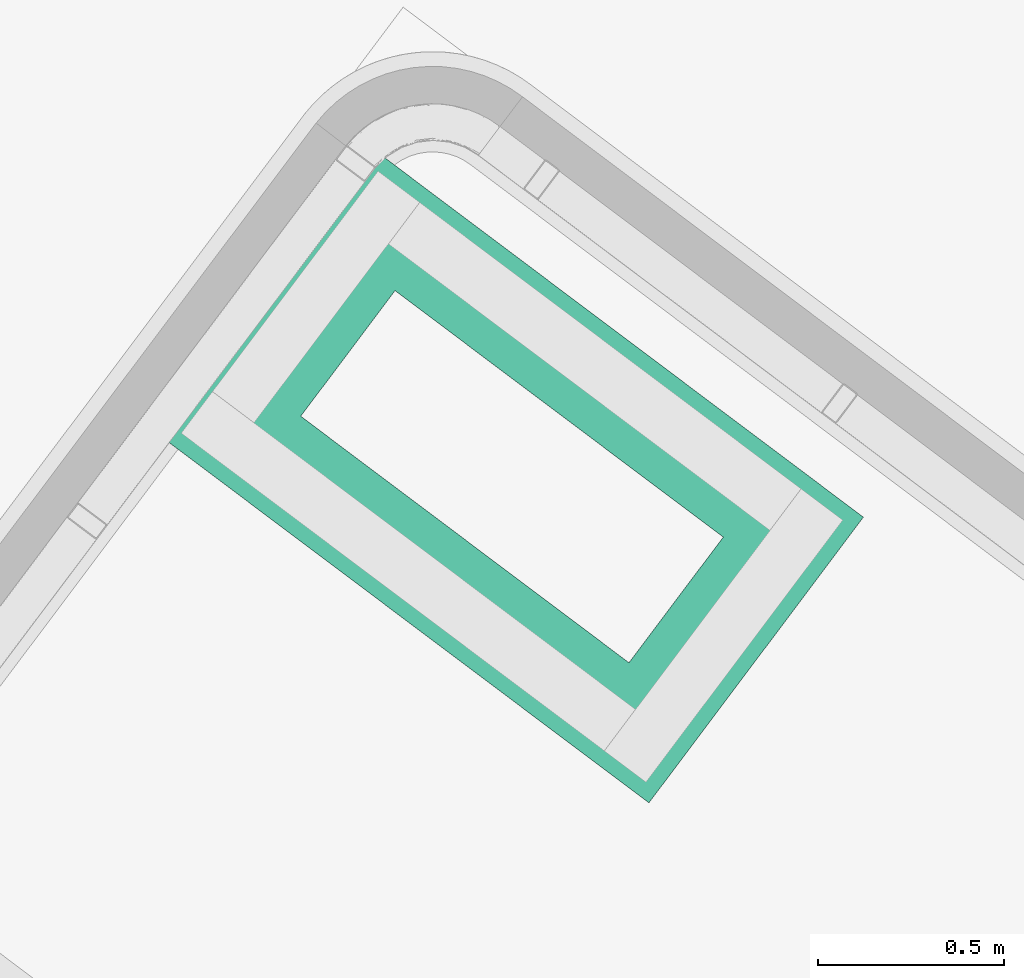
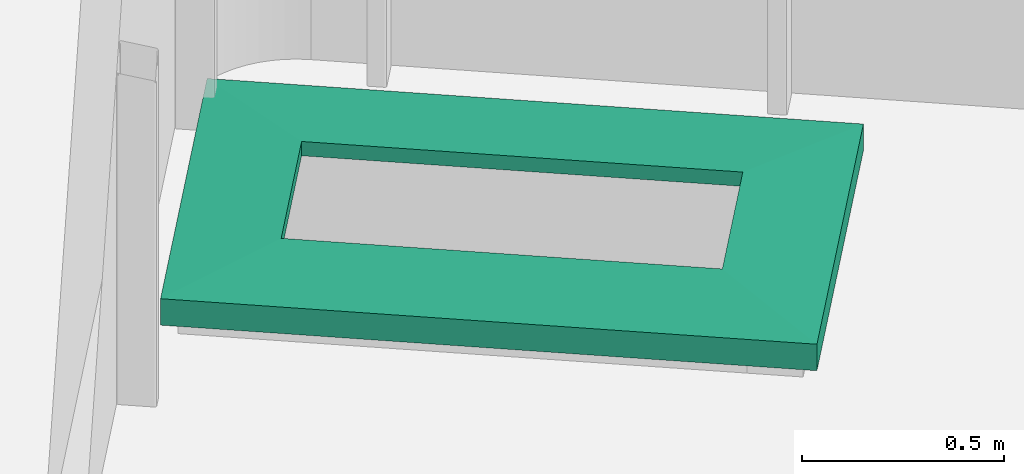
# One storey, part 26 of 28: 1 flow segment.
"""IFC2X3 building model written with IfcOpenShell, lengths in metres."""

from ifc_helpers import new_model, entity, si_unit, converted_unit, derived_unit, direction, frame, origin, place, context, subcontext, project, spatial, faceted_brep, source, transform, mapped, type_object, type_shapes, element, save


model = new_model("IFC2X3")

# Units and contexts
model_context = context("Model", 3, precision=1e-05, world=origin(), true_north=direction((6.123031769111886e-17, 1.0)))
body_context = subcontext(model_context, "Body", "Model", "MODEL_VIEW")
ifc_project = project(units=[si_unit("LENGTHUNIT", "METRE"), si_unit("AREAUNIT", "SQUARE_METRE"), si_unit("VOLUMEUNIT", "CUBIC_METRE"), converted_unit("PLANEANGLEUNIT", "DEGREE", entity("IfcRatioMeasure", 0.017453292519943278), si_unit("PLANEANGLEUNIT", "RADIAN"), dimensions=[0, 0, 0, 0, 0, 0, 0]), si_unit("MASSUNIT", "GRAM", prefix="KILO"), derived_unit("MASSDENSITYUNIT", [(si_unit("MASSUNIT", "GRAM", prefix="KILO"), 1), (si_unit("LENGTHUNIT", "METRE"), -3)]), derived_unit("IONCONCENTRATIONUNIT", [(si_unit("MASSUNIT", "GRAM", prefix="KILO"), 1), (si_unit("LENGTHUNIT", "METRE"), -3)]), derived_unit("MOMENTOFINERTIAUNIT", [(si_unit("LENGTHUNIT", "METRE"), 4)]), si_unit("TIMEUNIT", "SECOND"), si_unit("FREQUENCYUNIT", "HERTZ"), si_unit("THERMODYNAMICTEMPERATUREUNIT", "DEGREE_CELSIUS"), derived_unit("THERMALTRANSMITTANCEUNIT", [(si_unit("MASSUNIT", "GRAM", prefix="KILO"), 1), (si_unit("THERMODYNAMICTEMPERATUREUNIT", "KELVIN"), -1), (si_unit("TIMEUNIT", "SECOND"), -3)]), derived_unit("THERMALCONDUCTANCEUNIT", [(si_unit("MASSUNIT", "GRAM", prefix="KILO"), 1), (si_unit("THERMODYNAMICTEMPERATUREUNIT", "KELVIN"), -1), (si_unit("TIMEUNIT", "SECOND"), -3), (si_unit("LENGTHUNIT", "METRE"), 1)]), derived_unit("VOLUMETRICFLOWRATEUNIT", [(si_unit("LENGTHUNIT", "METRE"), 3), (si_unit("TIMEUNIT", "SECOND"), -1)]), derived_unit("MASSFLOWRATEUNIT", [(si_unit("MASSUNIT", "GRAM", prefix="KILO"), 1), (si_unit("TIMEUNIT", "SECOND"), -1)]), derived_unit("ROTATIONALFREQUENCYUNIT", [(si_unit("TIMEUNIT", "SECOND"), -1)]), si_unit("ELECTRICCURRENTUNIT", "AMPERE"), si_unit("ELECTRICVOLTAGEUNIT", "VOLT"), si_unit("POWERUNIT", "WATT"), si_unit("FORCEUNIT", "NEWTON", prefix="KILO"), si_unit("ILLUMINANCEUNIT", "LUX"), si_unit("LUMINOUSFLUXUNIT", "LUMEN"), si_unit("LUMINOUSINTENSITYUNIT", "CANDELA"), derived_unit("USERDEFINED", [(si_unit("MASSUNIT", "GRAM", prefix="KILO"), -1), (si_unit("LENGTHUNIT", "METRE"), -2), (si_unit("TIMEUNIT", "SECOND"), 3), (si_unit("LUMINOUSFLUXUNIT", "LUMEN"), 1)]), derived_unit("USERDEFINED", [(si_unit("MASSUNIT", "GRAM", prefix="KILO"), 1), (si_unit("TIMEUNIT", "SECOND"), -3), (si_unit("LENGTHUNIT", "METRE"), 3), (si_unit("ELECTRICCURRENTUNIT", "AMPERE"), -2)]), derived_unit("SOUNDPOWERUNIT", [(si_unit("MASSUNIT", "GRAM", prefix="KILO"), 1), (si_unit("TIMEUNIT", "SECOND"), -3), (si_unit("LENGTHUNIT", "METRE"), 2)]), derived_unit("SOUNDPRESSUREUNIT", [(si_unit("MASSUNIT", "GRAM", prefix="KILO"), 1), (si_unit("LENGTHUNIT", "METRE"), -1), (si_unit("TIMEUNIT", "SECOND"), -2)]), derived_unit("LINEARVELOCITYUNIT", [(si_unit("LENGTHUNIT", "METRE"), 1), (si_unit("TIMEUNIT", "SECOND"), -1)]), si_unit("PRESSUREUNIT", "PASCAL"), derived_unit("USERDEFINED", [(si_unit("MASSUNIT", "GRAM", prefix="KILO"), 1), (si_unit("LENGTHUNIT", "METRE"), -2), (si_unit("TIMEUNIT", "SECOND"), -2)]), derived_unit("LINEARFORCEUNIT", [(si_unit("MASSUNIT", "GRAM", prefix="KILO"), 1), (si_unit("TIMEUNIT", "SECOND"), -2)]), derived_unit("PLANARFORCEUNIT", [(si_unit("MASSUNIT", "GRAM", prefix="KILO"), 1), (si_unit("LENGTHUNIT", "METRE"), -1), (si_unit("TIMEUNIT", "SECOND"), -2)]), derived_unit("SPECIFICHEATCAPACITYUNIT", [(si_unit("THERMODYNAMICTEMPERATUREUNIT", "KELVIN"), -1), (si_unit("LENGTHUNIT", "METRE"), 2), (si_unit("TIMEUNIT", "SECOND"), -2)]), derived_unit("HEATINGVALUEUNIT", [(si_unit("LENGTHUNIT", "METRE"), 2), (si_unit("TIMEUNIT", "SECOND"), -2)]), derived_unit("VAPORPERMEABILITYUNIT", [(si_unit("LENGTHUNIT", "METRE"), -1), (si_unit("TIMEUNIT", "SECOND"), 1)]), derived_unit("DYNAMICVISCOSITYUNIT", [(si_unit("MASSUNIT", "GRAM", prefix="KILO"), 1), (si_unit("TIMEUNIT", "SECOND"), -1), (si_unit("LENGTHUNIT", "METRE"), -1)]), derived_unit("THERMALEXPANSIONCOEFFICIENTUNIT", [(si_unit("THERMODYNAMICTEMPERATUREUNIT", "KELVIN"), -1)]), derived_unit("MODULUSOFELASTICITYUNIT", [(si_unit("MASSUNIT", "GRAM", prefix="KILO"), 1), (si_unit("LENGTHUNIT", "METRE"), -1), (si_unit("TIMEUNIT", "SECOND"), -2)]), derived_unit("ISOTHERMALMOISTURECAPACITYUNIT", [(si_unit("LENGTHUNIT", "METRE"), 3), (si_unit("MASSUNIT", "GRAM", prefix="KILO"), -1)]), derived_unit("MOISTUREDIFFUSIVITYUNIT", [(si_unit("TIMEUNIT", "SECOND"), -1), (si_unit("LENGTHUNIT", "METRE"), 2)])], contexts=[model_context])

# Site, building, storey
site_placement = place(None, frame((0.0, 0.0, 235.0), z_axis=(0.0, 0.0, 1.0), x_axis=(-0.7996477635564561, 0.6004693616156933, 0.0)))
site = spatial("IfcSite", under=ifc_project, at=site_placement, Name="Default", CompositionType="ELEMENT")
building_placement = place(site_placement, origin())
building = spatial("IfcBuilding", under=site, at=building_placement, CompositionType="ELEMENT")
storey_placement = place(building_placement, frame((0.0, 0.0, 3.400000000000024)))
storey = spatial("IfcBuildingStorey", under=building, at=storey_placement, Name="PC- Coberta STR", CompositionType="ELEMENT", Elevation=3.400000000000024)

# Flow segment
pipe_segment_type = type_object("IfcPipeSegmentType", Name="Canalón:COB- Remat xapa coberta- Mur Installacions", PredefinedType="GUTTER")
shared_shape = source(origin(), body_context, "Body", "Brep", [
    faceted_brep([(0.017320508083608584, 0.9413208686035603, 0.010000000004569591), (0.0, 0.9586413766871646, 0.0), (1.638641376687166, 0.9586413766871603, 0.0), (1.6213208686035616, 0.941320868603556, 0.010000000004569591), (0.016320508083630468, 0.9423208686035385, 0.011732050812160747), (1.6223208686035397, 0.9423208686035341, 0.011732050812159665), (0.00200000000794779, 0.9566413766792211, 0.0034641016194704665), (1.6366413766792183, 0.9566413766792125, 0.0034641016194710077), (0.002000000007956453, 0.9566413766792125, 0.07809750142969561), (1.6366413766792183, 0.9566413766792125, 0.07809750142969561), (0.2666411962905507, 0.6920001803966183, 0.09653146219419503), (1.3720001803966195, 0.6920001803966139, 0.09653146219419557), (0.2666411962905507, 0.6920001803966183, 0.0589235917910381), (1.3720001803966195, 0.6920001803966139, 0.05892359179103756), (0.25232068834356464, 0.7063206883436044, 0.06719154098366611), (1.3863206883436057, 0.7063206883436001, 0.0671915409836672), (0.2513206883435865, 0.7073206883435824, 0.06545949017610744), (1.3873206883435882, 0.7073206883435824, 0.06545949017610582), (0.2686411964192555, 0.6900001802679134, 0.055459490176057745), (1.3700001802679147, 0.6900001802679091, 0.055459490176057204), (0.2686411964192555, 0.6900001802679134, 0.09865497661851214), (1.3700001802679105, 0.6900001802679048, 0.0986549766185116), (0.0, 0.9586413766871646, 0.08000000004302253), (1.638641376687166, 0.9586413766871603, 0.08000000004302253), (0.017320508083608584, 0.01732050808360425, 0.010000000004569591), (0.0, 0.0, 0.0), (0.016320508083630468, 0.016320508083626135, 0.011732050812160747), (0.00200000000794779, 0.0020000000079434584, 0.0034641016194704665), (0.002000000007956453, 0.0020000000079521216, 0.07809750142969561), (0.2666411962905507, 0.2666411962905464, 0.09653146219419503), (0.2666411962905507, 0.2666411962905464, 0.0589235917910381), (0.25232068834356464, 0.2523206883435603, 0.06719154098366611), (0.2513206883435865, 0.2513206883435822, 0.06545949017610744), (0.2686411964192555, 0.26864119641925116, 0.055459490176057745), (0.2686411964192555, 0.26864119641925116, 0.09865497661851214), (0.0, 0.0, 0.08000000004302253), (1.6213208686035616, 0.01732050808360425, 0.010000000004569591), (1.638641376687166, 0.0, 0.0), (1.6223208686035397, 0.016320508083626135, 0.011732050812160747), (1.6366413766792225, 0.0020000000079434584, 0.0034641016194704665), (1.6366413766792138, 0.0020000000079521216, 0.07809750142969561), (1.3720001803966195, 0.2666411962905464, 0.09653146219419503), (1.3720001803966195, 0.2666411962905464, 0.0589235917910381), (1.3863206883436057, 0.2523206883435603, 0.06719154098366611), (1.3873206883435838, 0.2513206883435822, 0.06545949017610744), (1.3700001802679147, 0.26864119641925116, 0.055459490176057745), (1.3700001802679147, 0.26864119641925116, 0.09865497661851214), (1.638641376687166, 0.0, 0.08000000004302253)], [[[0, 1, 2, 3]], [[4, 0, 3, 5]], [[6, 4, 5, 7]], [[8, 6, 7, 9]], [[10, 8, 9, 11]], [[12, 10, 11, 13]], [[14, 12, 13, 15]], [[16, 14, 15, 17]], [[18, 16, 17, 19]], [[20, 18, 19, 21]], [[22, 20, 21, 23]], [[1, 22, 23, 2]], [[24, 25, 1, 0]], [[26, 24, 0, 4]], [[27, 26, 4, 6]], [[28, 27, 6, 8]], [[29, 28, 8, 10]], [[30, 29, 10, 12]], [[31, 30, 12, 14]], [[32, 31, 14, 16]], [[33, 32, 16, 18]], [[34, 33, 18, 20]], [[35, 34, 20, 22]], [[25, 35, 22, 1]], [[36, 37, 25, 24]], [[38, 36, 24, 26]], [[39, 38, 26, 27]], [[40, 39, 27, 28]], [[41, 40, 28, 29]], [[42, 41, 29, 30]], [[43, 42, 30, 31]], [[44, 43, 31, 32]], [[45, 44, 32, 33]], [[46, 45, 33, 34]], [[47, 46, 34, 35]], [[37, 47, 35, 25]], [[3, 2, 37, 36]], [[5, 3, 36, 38]], [[7, 5, 38, 39]], [[9, 7, 39, 40]], [[11, 9, 40, 41]], [[13, 11, 41, 42]], [[15, 13, 42, 43]], [[17, 15, 43, 44]], [[19, 17, 44, 45]], [[21, 19, 45, 46]], [[23, 21, 46, 47]], [[2, 23, 47, 37]]]),
])
type_shapes(pipe_segment_type, [shared_shape])
flow_segment_placement = place(storey_placement, frame((32.800826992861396, -37.339510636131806, 0.41946162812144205)))
element("IfcFlowSegment", 1, at=flow_segment_placement, inside=storey, type_object=pipe_segment_type, Name="Canalón:COB- Remat xapa coberta- Mur Installacions", ObjectType="Canalón:COB- Remat xapa coberta- Mur Installacions", context=body_context, shape_type="MappedRepresentation", body=[
    mapped(shared_shape, transform((0.0, 0.0, 0.0), scale=1.0)),
])

save(model, "model.ifc")
